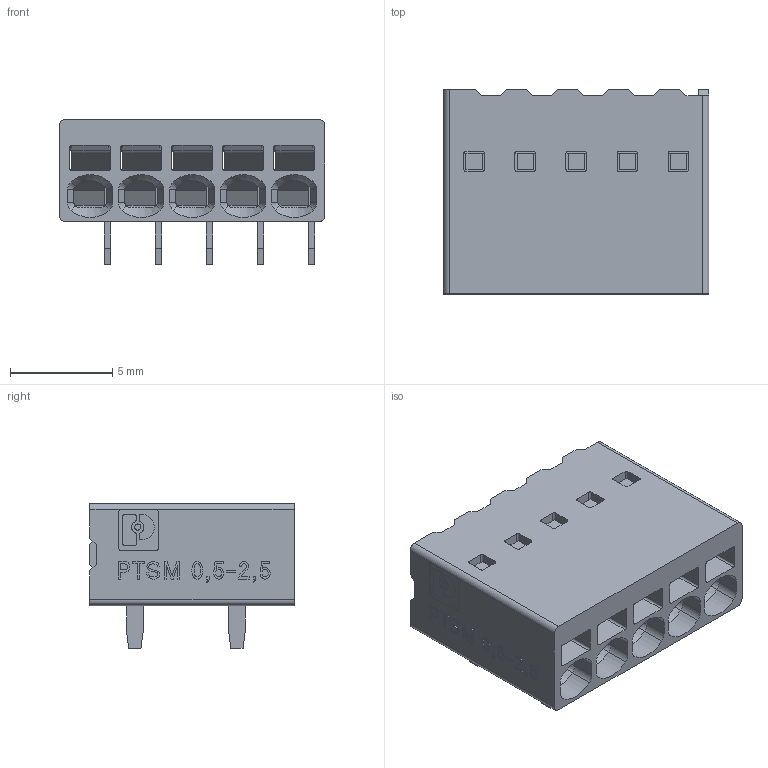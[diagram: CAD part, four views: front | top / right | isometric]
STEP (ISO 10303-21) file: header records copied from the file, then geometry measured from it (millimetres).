
FILE_DESCRIPTION(('Creo Elements/Direct Modeling STEP Export'),'2;1');
FILE_NAME('C:/Temp/JobServerData/JobServer Files/4c3ab82b-348b-4cf2-a94a-63f4694a3099/work/output/model.stp','2023-01-09T 5:29:39',(''),(''),'Creo Elements/Direct Modeling STEP processor for AP214 (Solid Model)','Creo Elements/Direct Modeling 20.1D 10-Oct-2020 (C) Parametric Technology GmbH','');
FILE_SCHEMA(('AUTOMOTIVE_DESIGN { 1 0 10303 214 1 1 1 1 }'));
Length unit declared in the file: millimetre
Products named in the file (3): LP_PTSM_0_5_2_5_P_Metall_H_2_10; AT_PTSM_0_5_H_2_5_THR; PTSM_0.5-5-2.5-H_THR-R32
Assembly tree (6 placements, depth 2):
  PTSM_0.5-5-2.5-H_THR-R32
    LP_PTSM_0_5_2_5_P_Metall_H_2_10  x5
    AT_PTSM_0_5_H_2_5_THR
Bounding box: 13.02 x 10 x 7.1 mm (x, y, z)
Volume: 451.2 mm3; surface area: 1503.5 mm2
Topology: 6 solids, 6 shells, 986 faces, 2793 edges, 1825 vertices
Faces by surface type: plane 752, cylinder 173, cone 44, extrusion 17
Entity records: 30477 total; most frequent: CARTESIAN_POINT 5942, ORIENTED_EDGE 4626, DIRECTION 4078, EDGE_CURVE 2313, VECTOR 1948, LINE 1931, VERTEX_POINT 1509, AXIS2_PLACEMENT_3D 1065
